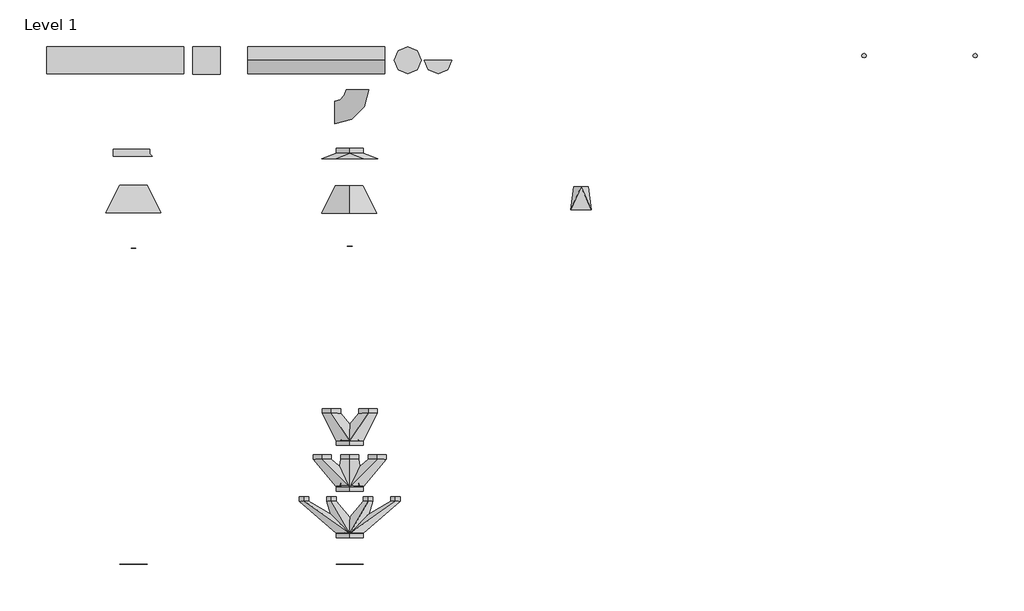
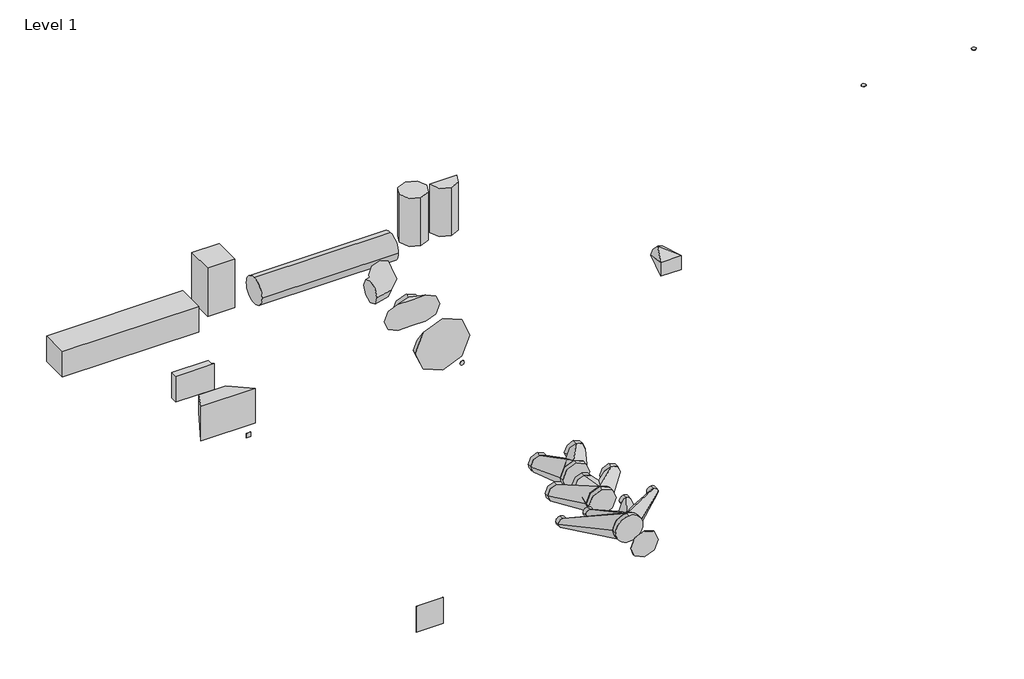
# One storey, incomplete: 13 duct fittings, 5 duct segments, 2 air terminals.
"""IFC4 building model written with IfcOpenShell, lengths in millimetres."""

from ifc_helpers import new_model, si_unit, point, frame, frame_2d, origin, origin_with_axes, place, context, project, spatial, polyline, circle_curve, trimmed, segment, composite_curve, outline, extrude, transform, mapped, element, save
from components import air_terminal_06ff5f08, duct_fitting_edcd9fdf, duct_fitting_15a843aa, duct_fitting_3c55f1c0, duct_fitting_66f306ce, duct_fitting_f0b5bbc7, duct_fitting_9dfc74d0, duct_fitting_6a4d6866, circular_adapter_f9c00698, circular_arch_7d146bea, circular_reducer_2c056f90, connection_partition_circular_2b3e5c2c, connection_partition_square_086a8c5e, square_adapter_45a1a68f

model = new_model("IFC4")

# Units and contexts
model_context = context("Model", 3, world=origin())
ifc_project = project(units=[si_unit("LENGTHUNIT", "METRE", prefix="MILLI")], contexts=[model_context])

# Site, building, storey
site = spatial("IfcSite", under=ifc_project)
building = spatial("IfcBuilding", under=site)
storey = spatial("IfcBuildingStorey", under=building, Name="Level 1", Elevation=0.0)

# Air terminals
placement = place(None, origin())
air_terminal_shape = air_terminal_06ff5f08(model_context)
element("IfcAirTerminal", 1, ObjectType="Air Outlet_Virtual _Circular : Air Outlet_Virtual _Circular", at=placement, inside=storey, context=model_context, shape_type="MappedRepresentation", body=[
    mapped(air_terminal_shape, transform((-18962.9799767, 3834.7803368, 0.0), x_axis=(3.2473787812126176e-06, 0.0, 0.9999999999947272), y_axis=(0.9999999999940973, -1.122505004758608e-06, -3.2473787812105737e-06), z_axis=(1.122505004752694e-06, 0.9999999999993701, -3.643733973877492e-12))),
])
element("IfcAirTerminal", 2, ObjectType="Air Inlet_Virtual _Circular : Air Inlet_Virtual _Circular", at=placement, inside=storey, context=model_context, shape_type="MappedRepresentation", body=[
    mapped(air_terminal_shape, transform((-20177.8491297, 3834.289293, 0.0), x_axis=(0.0, 4.977704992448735e-06, 0.9999999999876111), y_axis=(-3.504230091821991e-06, 0.9999999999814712, -4.9777049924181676e-06), z_axis=(-0.99999999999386, -3.504230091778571e-06, 1.7444488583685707e-11))),
])

# Duct fittings
duct_fitting_shape = duct_fitting_edcd9fdf(model_context)
element("IfcDuctFitting", 3, ObjectType="Prihoda Square Cap : Prihoda Square Cap", at=placement, inside=storey, context=model_context, shape_type="MappedRepresentation", body=[
    mapped(duct_fitting_shape, transform((-28165.1696185, 1729.2539035, 0.0), x_axis=(0.0, 1.0000000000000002, 0.0), y_axis=(-1.0000000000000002, 0.0, 0.0), z_axis=(0.0, 0.0, 1.0))),
])
duct_fitting_2_shape = duct_fitting_15a843aa(model_context)
element("IfcDuctFitting", 4, ObjectType="Prihoda Circular Pants 2 Outlets : Pants Circle 2 Outlets", at=placement, inside=storey, context=model_context, shape_type="MappedRepresentation", body=[
    mapped(duct_fitting_2_shape, transform((-25800.2149588, -375.7460965, 0.0), x_axis=(0.0, 1.0, 0.0), y_axis=(-1.0, 0.0, 0.0), z_axis=(0.0, 0.0, 1.0))),
])
duct_fitting_3_shape = duct_fitting_3c55f1c0(model_context)
element("IfcDuctFitting", 5, ObjectType="Prihoda Circular Pants 3 Outlets : Pants Circular 3 Outlets", at=placement, inside=storey, context=model_context, shape_type="MappedRepresentation", body=[
    mapped(duct_fitting_3_shape, transform((-25800.2149588, -875.7460965, 0.0), x_axis=(0.0, 1.0000000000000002, 0.0), y_axis=(-1.0000000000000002, 0.0, 0.0), z_axis=(0.0, 0.0, 1.0))),
])
duct_fitting_4_shape = duct_fitting_66f306ce(model_context)
element("IfcDuctFitting", 6, ObjectType="Prihoda Circular Pants 4 Outlets : Pants Circular 4 Outlets", at=placement, inside=storey, context=model_context, shape_type="MappedRepresentation", body=[
    mapped(duct_fitting_4_shape, transform((-25800.2149588, -1385.7460965, 0.0), x_axis=(0.0, 1.0, 0.0), y_axis=(-1.0, 0.0, 0.0), z_axis=(0.0, 0.0, 1.0))),
])
duct_fitting_5_shape = duct_fitting_f0b5bbc7(model_context)
element("IfcDuctFitting", 7, ObjectType="Prihoda Square Reducer : Prihoda Square Reducer", at=placement, inside=storey, context=model_context, shape_type="MappedRepresentation", body=[
    mapped(duct_fitting_5_shape, transform((-28165.2612556, 2117.7820505, 0.0), x_axis=(0.0, 1.0, 0.0), y_axis=(-1.0, 0.0, 0.0), z_axis=(0.0, 0.0, 1.0))),
])
duct_fitting_6_shape = duct_fitting_9dfc74d0(model_context)
element("IfcDuctFitting", 8, ObjectType="Prihoda Square Circular Reducer : Prihoda Square Circular Reducer", at=placement, inside=storey, context=model_context, shape_type="MappedRepresentation", body=[
    mapped(duct_fitting_6_shape, transform((-23270.3056394, 2151.0764078, 0.0), x_axis=(0.0, 1.0, 0.0), y_axis=(-1.0, 0.0, 0.0), z_axis=(0.0, 0.0, 1.0))),
])
duct_fitting_7_shape = duct_fitting_6a4d6866(model_context)
element("IfcDuctFitting", 9, ObjectType="Prihoda Circular Cap : Prihoda Circular Cap", at=placement, inside=storey, context=model_context, shape_type="MappedRepresentation", body=[
    mapped(duct_fitting_7_shape, transform((-25800.2149588, 1749.2539035, 0.0), x_axis=(0.0, 1.0000000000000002, 0.0), y_axis=(-1.0000000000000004, 0.0, 0.0), z_axis=(0.0, 0.0, 1.0000000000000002))),
])
circular_adapter_shape = circular_adapter_f9c00698(model_context)
element("IfcDuctFitting", 10, ObjectType="Prihoda Circular Duct Adapter : Circular Adapter", at=placement, inside=storey, context=model_context, shape_type="MappedRepresentation", body=[
    mapped(circular_adapter_shape, transform((-25800.2149588, 2809.9424444, 0.0), x_axis=(0.0, 1.0000000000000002, 0.0), y_axis=(-1.0000000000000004, 0.0, 0.0), z_axis=(0.0, 0.0, 1.0000000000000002))),
])
circular_arch_shape = circular_arch_7d146bea(model_context)
element("IfcDuctFitting", 11, ObjectType="Prihoda Circular Duct Arch : Circular Arch", at=placement, inside=storey, context=model_context, shape_type="MappedRepresentation", body=[
    mapped(circular_arch_shape, transform((-25716.08728, 3212.7533081, 0.0), x_axis=(1.0, 0.0, 0.0), y_axis=(0.0, 1.0, 0.0), z_axis=(0.0, 0.0, 1.0))),
])
circular_reducer_shape = circular_reducer_2c056f90(model_context)
element("IfcDuctFitting", 12, ObjectType="Prihoda Circular  Reducer : Circular Reducer", at=placement, inside=storey, context=model_context, shape_type="MappedRepresentation", body=[
    mapped(circular_reducer_shape, transform((-25807.6599692, 2110.2774686, 0.0), x_axis=(0.0, 1.0, 0.0), y_axis=(-1.0, 0.0, 0.0), z_axis=(0.0, 0.0, 1.0))),
])
connection_partition_circular_shape = connection_partition_circular_2b3e5c2c(model_context)
element("IfcDuctFitting", 13, ObjectType="Prihoda Circular Duct_Connection - Partition of Loop : Connection - Partition_Circular", at=placement, inside=storey, context=model_context, shape_type="MappedRepresentation", body=[
    mapped(connection_partition_circular_shape, transform((-25800.2149588, -1725.7608558, 0.0), x_axis=(-0.002244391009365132, 0.9999974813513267, 0.0), y_axis=(-0.9999974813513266, -0.0022443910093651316, 0.0), z_axis=(0.0, 0.0, 0.9999999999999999))),
])
connection_partition_square_shape = connection_partition_square_086a8c5e(model_context)
element("IfcDuctFitting", 14, ObjectType="Prihoda Square Duct_Connection - Partition of Loop : Connection - Partition_Square", at=placement, inside=storey, context=model_context, shape_type="MappedRepresentation", body=[
    mapped(connection_partition_square_shape, transform((-28164.6691432, -1726.2460963, 0.0), x_axis=(-0.0009504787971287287, 0.999999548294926, 0.0), y_axis=(-0.9999995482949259, -0.0009504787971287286, 0.0), z_axis=(0.0, 0.0, 0.9999999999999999))),
])
square_adapter_shape = square_adapter_45a1a68f(model_context)
element("IfcDuctFitting", 15, ObjectType="Prihoda Square Duct Adapter : Square Adapter", at=placement, inside=storey, context=model_context, shape_type="MappedRepresentation", body=[
    mapped(square_adapter_shape, transform((-28184.9923637, 2740.3193333, 0.0), x_axis=(0.0, 1.0000000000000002, 0.0), y_axis=(-1.0000000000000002, 0.0, 0.0), z_axis=(0.0, 0.0, 1.0))),
])

# Duct segments
element("IfcDuctSegment", 16, ObjectType="Prihoda Square Duct Straight", at=placement, inside=storey, context=model_context, shape_type="SweptSolid", body=[
    extrude(outline(polyline([(-29115.1696185, 3634.2539035), (-29115.1696185, 3934.2539035), (-27615.1696185, 3934.2539035), (-27615.1696185, 3634.2539035), (-29115.1696185, 3634.2539035)])), frame((0.0, 0.0, -150.0), z_axis=(0.0, 0.0, 1.0), x_axis=(1.0, 0.0, 0.0)), (0.0, 0.0, 1.0), 300.0),
])
element("IfcDuctSegment", 17, ObjectType="Prihoda Circular Duct Straight", at=placement, inside=storey, context=model_context, shape_type="SweptSolid", body=[
    extrude(outline(composite_curve([segment(trimmed(circle_curve(frame_2d((3784.2539035, 0.0)), 150.0), [point((3634.2539035, 0.0))], [point((3784.2539035, 150.0))], False, "CARTESIAN"), True, "CONTINUOUS"), segment(trimmed(circle_curve(frame_2d((3784.2539035, 0.0)), 150.0), [point((3784.2539035, 150.0))], [point((3934.2539035, 0.0))], False, "CARTESIAN"), True, "CONTINUOUS"), segment(trimmed(circle_curve(frame_2d((3784.2539035, 0.0)), 150.0), [point((3934.2539035, 0.0))], [point((3784.2539035, -150.0))], False, "CARTESIAN"), True, "CONTINUOUS"), segment(trimmed(circle_curve(frame_2d((3784.2539035, 0.0)), 150.0), [point((3784.2539035, -150.0))], [point((3634.2539035, 0.0))], False, "CARTESIAN"), True, "CONTINUOUS")], self_intersect=False)), frame((-26915.1696185, 0.0, 0.0), z_axis=(1.0, 0.0, 0.0), x_axis=(0.0, 1.0, 0.0)), (0.0, 0.0, 1.0), 1500.0),
])
element("IfcDuctSegment", 18, ObjectType="Prihoda Square Duct Straight", at=placement, inside=storey, context=model_context, shape_type="SweptSolid", body=[
    extrude(outline(polyline([(-27516.086643, 3633.4158043), (-27516.086643, 3933.4158043), (-27216.086643, 3933.4158043), (-27216.086643, 3633.4158043), (-27516.086643, 3633.4158043)])), origin_with_axes(), (0.0, 0.0, 1.0), 560.0),
])
element("IfcDuctSegment", 19, ObjectType="Prihoda Circular Duct Straight", at=placement, inside=storey, context=model_context, shape_type="SweptSolid", body=[
    extrude(outline(composite_curve([segment(trimmed(circle_curve(frame_2d((-25166.1781279, 3784.2539035)), 150.0), [point((-25166.1781279, 3934.2539035))], [point((-25016.1781279, 3784.2539035))], False, "CARTESIAN"), True, "CONTINUOUS"), segment(trimmed(circle_curve(frame_2d((-25166.1781279, 3784.2539035)), 150.0), [point((-25016.1781279, 3784.2539035))], [point((-25166.1781279, 3634.2539035))], False, "CARTESIAN"), True, "CONTINUOUS"), segment(trimmed(circle_curve(frame_2d((-25166.1781279, 3784.2539035)), 150.0), [point((-25166.1781279, 3634.2539035))], [point((-25316.1781279, 3784.2539035))], False, "CARTESIAN"), True, "CONTINUOUS"), segment(trimmed(circle_curve(frame_2d((-25166.1781279, 3784.2539035)), 150.0), [point((-25316.1781279, 3784.2539035))], [point((-25166.1781279, 3934.2539035))], False, "CARTESIAN"), True, "CONTINUOUS")], self_intersect=False)), origin_with_axes(), (0.0, 0.0, 1.0), 560.0),
])
element("IfcDuctSegment", 20, ObjectType="Prihoda Circular Duct Straight", at=placement, inside=storey, context=model_context, shape_type="SweptSolid", body=[
    extrude(outline(composite_curve([segment(trimmed(circle_curve(frame_2d((-24835.2602991, 3784.2539035)), 150.0), [point((-24685.2602991, 3784.2539035))], [point((-24835.2602991, 3634.2539035))], False, "CARTESIAN"), True, "CONTINUOUS"), segment(trimmed(circle_curve(frame_2d((-24835.2602991, 3784.2539035)), 150.0), [point((-24835.2602991, 3634.2539035))], [point((-24985.2602991, 3784.2539035))], False, "CARTESIAN"), True, "CONTINUOUS"), segment(polyline([(-24985.2602991, 3784.2539035), (-24685.2602991, 3784.2539035)]), True, "CONTINUOUS")], self_intersect=False)), origin_with_axes(), (0.0, 0.0, 1.0), 560.0),
])

save(model, "model.ifc")
